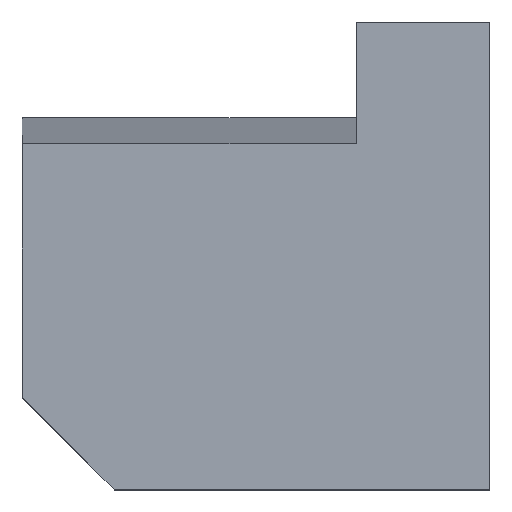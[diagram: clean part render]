
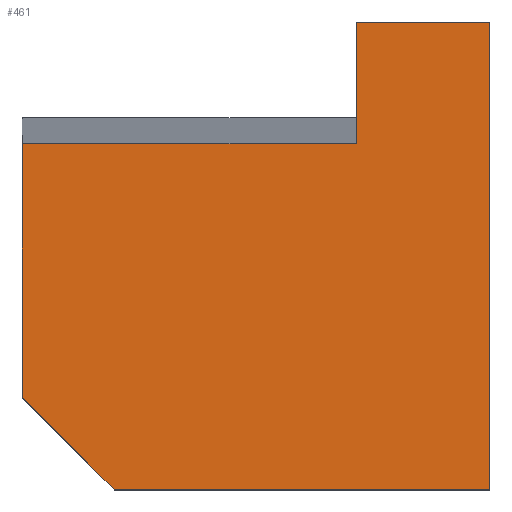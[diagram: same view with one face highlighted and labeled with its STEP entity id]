
A CAD part, top view. The second image highlights one B-rep face of the part: STEP entity #461.
In plain terms, the highlighted planar face has unit normal (0, 0, 1).
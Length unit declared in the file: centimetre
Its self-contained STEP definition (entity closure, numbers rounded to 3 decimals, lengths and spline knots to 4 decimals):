
#20 = CARTESIAN_POINT ( 'NONE',  ( 0., 739.6532, 1000. ) ) ;
#35 = CARTESIAN_POINT ( 'NONE',  ( 1000., 1000., 1000. ) ) ;
#42 = VERTEX_POINT ( 'NONE', #790 ) ;
#44 = CARTESIAN_POINT ( 'NONE',  ( 0., 1000., 1000. ) ) ;
#57 = DIRECTION ( 'NONE',  ( 0., 1., 0. ) ) ;
#66 = CARTESIAN_POINT ( 'NONE',  ( 714.8288, 1000., 1000. ) ) ;
#68 = ORIENTED_EDGE ( 'NONE', *, *, #1126, .F. ) ;
#82 = VECTOR ( 'NONE', #992, 100. ) ;
#135 = CARTESIAN_POINT ( 'NONE',  ( 0., 0., 1000. ) ) ;
#137 = ORIENTED_EDGE ( 'NONE', *, *, #227, .T. ) ;
#140 = DIRECTION ( 'NONE',  ( 0.707, -0.707, 0. ) ) ;
#148 = DIRECTION ( 'NONE',  ( 0., 0., 1. ) ) ;
#150 = VERTEX_POINT ( 'NONE', #20 ) ;
#162 = ORIENTED_EDGE ( 'NONE', *, *, #1122, .T. ) ;
#164 = VECTOR ( 'NONE', #140, 100. ) ;
#178 = VERTEX_POINT ( 'NONE', #193 ) ;
#189 = DIRECTION ( 'NONE',  ( 1., 0., 0. ) ) ;
#193 = CARTESIAN_POINT ( 'NONE',  ( 0., 196.1885, 1000. ) ) ;
#209 = ORIENTED_EDGE ( 'NONE', *, *, #772, .T. ) ;
#227 = EDGE_CURVE ( 'NONE', #665, #594, #881, .T. ) ;
#334 = VECTOR ( 'NONE', #555, 100. ) ;
#338 = FACE_OUTER_BOUND ( 'NONE', #989, .T. ) ;
#389 = ORIENTED_EDGE ( 'NONE', *, *, #900, .T. ) ;
#406 = CARTESIAN_POINT ( 'NONE',  ( 98.0943, 98.0943, 1000. ) ) ;
#410 = VECTOR ( 'NONE', #189, 100. ) ;
#461 = ADVANCED_FACE ( 'NONE', ( #338 ), #660, .T. ) ;
#464 = LINE ( 'NONE', #35, #82 ) ;
#473 = VERTEX_POINT ( 'NONE', #937 ) ;
#478 = EDGE_CURVE ( 'NONE', #178, #665, #770, .T. ) ;
#483 = LINE ( 'NONE', #44, #1118 ) ;
#555 = DIRECTION ( 'NONE',  ( -1., 0., 0. ) ) ;
#562 = VECTOR ( 'NONE', #630, 100. ) ;
#579 = ORIENTED_EDGE ( 'NONE', *, *, #952, .T. ) ;
#581 = DIRECTION ( 'NONE',  ( 1., 0., 0. ) ) ;
#587 = LINE ( 'NONE', #66, #659 ) ;
#594 = VERTEX_POINT ( 'NONE', #999 ) ;
#621 = CARTESIAN_POINT ( 'NONE',  ( 0., 0., 1000. ) ) ;
#630 = DIRECTION ( 'NONE',  ( -1., 0., 0. ) ) ;
#640 = LINE ( 'NONE', #1081, #334 ) ;
#643 = VERTEX_POINT ( 'NONE', #869 ) ;
#659 = VECTOR ( 'NONE', #57, 100. ) ;
#660 = PLANE ( 'NONE',  #948 ) ;
#665 = VERTEX_POINT ( 'NONE', #700 ) ;
#700 = CARTESIAN_POINT ( 'NONE',  ( 196.1885, 0., 1000. ) ) ;
#770 = LINE ( 'NONE', #406, #164 ) ;
#772 = EDGE_CURVE ( 'NONE', #594, #42, #464, .T. ) ;
#790 = CARTESIAN_POINT ( 'NONE',  ( 1000., 1000., 1000. ) ) ;
#800 = CARTESIAN_POINT ( 'NONE',  ( 714.8288, 739.6532, 1000. ) ) ;
#845 = DIRECTION ( 'NONE',  ( 0., -1., 0. ) ) ;
#869 = CARTESIAN_POINT ( 'NONE',  ( 714.8288, 1000., 1000. ) ) ;
#881 = LINE ( 'NONE', #621, #410 ) ;
#900 = EDGE_CURVE ( 'NONE', #42, #643, #640, .T. ) ;
#937 = CARTESIAN_POINT ( 'NONE',  ( 714.8288, 739.6532, 1000. ) ) ;
#948 = AXIS2_PLACEMENT_3D ( 'NONE', #135, #148, #581 ) ;
#952 = EDGE_CURVE ( 'NONE', #473, #150, #1065, .T. ) ;
#989 = EDGE_LOOP ( 'NONE', ( #579, #162, #1070, #137, #209, #389, #68 ) ) ;
#992 = DIRECTION ( 'NONE',  ( 0., 1., 0. ) ) ;
#999 = CARTESIAN_POINT ( 'NONE',  ( 1000., 0., 1000. ) ) ;
#1065 = LINE ( 'NONE', #800, #562 ) ;
#1070 = ORIENTED_EDGE ( 'NONE', *, *, #478, .T. ) ;
#1081 = CARTESIAN_POINT ( 'NONE',  ( 0., 1000., 1000. ) ) ;
#1118 = VECTOR ( 'NONE', #845, 100. ) ;
#1122 = EDGE_CURVE ( 'NONE', #150, #178, #483, .T. ) ;
#1126 = EDGE_CURVE ( 'NONE', #473, #643, #587, .T. ) ;
